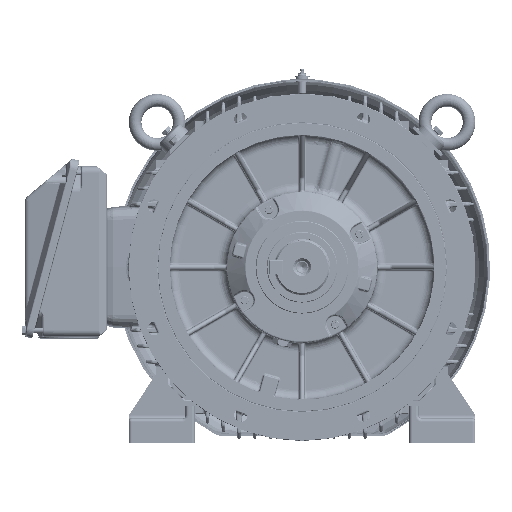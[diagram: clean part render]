
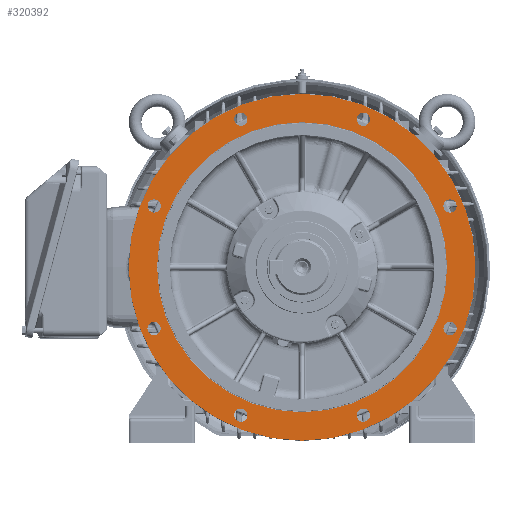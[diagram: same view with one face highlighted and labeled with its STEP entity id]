
A CAD part, front view. The second image highlights one B-rep face of the part: STEP entity #320392.
In plain terms, the highlighted planar face has unit normal (0, -1, 0).
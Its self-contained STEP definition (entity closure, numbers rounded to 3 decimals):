
#48047=PLANE('',#338226);
#79943=ORIENTED_EDGE('',*,*,#131924,.T.);
#79944=ORIENTED_EDGE('',*,*,#133257,.F.);
#79945=ORIENTED_EDGE('',*,*,#133258,.F.);
#79946=ORIENTED_EDGE('',*,*,#133259,.F.);
#79947=ORIENTED_EDGE('',*,*,#133260,.F.);
#79948=ORIENTED_EDGE('',*,*,#133261,.F.);
#79949=ORIENTED_EDGE('',*,*,#133262,.F.);
#79950=ORIENTED_EDGE('',*,*,#133263,.F.);
#79951=ORIENTED_EDGE('',*,*,#133264,.F.);
#79952=ORIENTED_EDGE('',*,*,#133265,.F.);
#131924=EDGE_CURVE('',#160387,#160387,#178117,.T.);
#133257=EDGE_CURVE('',#160989,#160989,#178764,.T.);
#133258=EDGE_CURVE('',#160990,#160990,#178765,.T.);
#133259=EDGE_CURVE('',#160991,#160991,#178766,.T.);
#133260=EDGE_CURVE('',#160992,#160992,#178767,.T.);
#133261=EDGE_CURVE('',#160993,#160993,#178768,.T.);
#133262=EDGE_CURVE('',#160994,#160994,#178769,.T.);
#133263=EDGE_CURVE('',#160995,#160995,#178770,.T.);
#133264=EDGE_CURVE('',#160996,#160996,#178771,.T.);
#133265=EDGE_CURVE('',#160997,#160997,#178772,.T.);
#160387=VERTEX_POINT('',#483917);
#160989=VERTEX_POINT('',#501488);
#160990=VERTEX_POINT('',#501490);
#160991=VERTEX_POINT('',#501492);
#160992=VERTEX_POINT('',#501494);
#160993=VERTEX_POINT('',#501496);
#160994=VERTEX_POINT('',#501498);
#160995=VERTEX_POINT('',#501500);
#160996=VERTEX_POINT('',#501502);
#160997=VERTEX_POINT('',#501504);
#178117=CIRCLE('',#337120,275.);
#178764=CIRCLE('',#338227,230.);
#178765=CIRCLE('',#338228,10.5);
#178766=CIRCLE('',#338229,10.5);
#178767=CIRCLE('',#338230,10.5);
#178768=CIRCLE('',#338231,10.5);
#178769=CIRCLE('',#338232,10.5);
#178770=CIRCLE('',#338233,10.5);
#178771=CIRCLE('',#338234,10.5);
#178772=CIRCLE('',#338235,10.5);
#189003=EDGE_LOOP('',(#79943));
#189004=EDGE_LOOP('',(#79944));
#189005=EDGE_LOOP('',(#79945));
#189006=EDGE_LOOP('',(#79946));
#189007=EDGE_LOOP('',(#79947));
#189008=EDGE_LOOP('',(#79948));
#189009=EDGE_LOOP('',(#79949));
#189010=EDGE_LOOP('',(#79950));
#189011=EDGE_LOOP('',(#79951));
#189012=EDGE_LOOP('',(#79952));
#205681=FACE_BOUND('',#189003,.T.);
#205682=FACE_BOUND('',#189004,.T.);
#205683=FACE_BOUND('',#189005,.T.);
#205684=FACE_BOUND('',#189006,.T.);
#205685=FACE_BOUND('',#189007,.T.);
#205686=FACE_BOUND('',#189008,.T.);
#205687=FACE_BOUND('',#189009,.T.);
#205688=FACE_BOUND('',#189010,.T.);
#205689=FACE_BOUND('',#189011,.T.);
#205690=FACE_BOUND('',#189012,.T.);
#320392=ADVANCED_FACE('',(#205681,#205682,#205683,#205684,#205685,#205686,
#205687,#205688,#205689,#205690),#48047,.F.);
#337120=AXIS2_PLACEMENT_3D('',#483916,#371608,#371609);
#338226=AXIS2_PLACEMENT_3D('',#501486,#374150,#374151);
#338227=AXIS2_PLACEMENT_3D('',#501487,#374152,#374153);
#338228=AXIS2_PLACEMENT_3D('',#501489,#374154,#374155);
#338229=AXIS2_PLACEMENT_3D('',#501491,#374156,#374157);
#338230=AXIS2_PLACEMENT_3D('',#501493,#374158,#374159);
#338231=AXIS2_PLACEMENT_3D('',#501495,#374160,#374161);
#338232=AXIS2_PLACEMENT_3D('',#501497,#374162,#374163);
#338233=AXIS2_PLACEMENT_3D('',#501499,#374164,#374165);
#338234=AXIS2_PLACEMENT_3D('',#501501,#374166,#374167);
#338235=AXIS2_PLACEMENT_3D('',#501503,#374168,#374169);
#371608=DIRECTION('',(0.,-1.,0.));
#371609=DIRECTION('',(0.,0.,-1.));
#374150=DIRECTION('',(0.,1.,0.));
#374151=DIRECTION('',(0.,0.,1.));
#374152=DIRECTION('',(0.,-1.,0.));
#374153=DIRECTION('',(0.,0.,-1.));
#374154=DIRECTION('',(0.,-1.,0.));
#374155=DIRECTION('',(1.,0.,0.));
#374156=DIRECTION('',(0.,-1.,0.));
#374157=DIRECTION('',(1.,0.,0.));
#374158=DIRECTION('',(0.,-1.,0.));
#374159=DIRECTION('',(1.,0.,0.));
#374160=DIRECTION('',(0.,-1.,0.));
#374161=DIRECTION('',(1.,0.,0.));
#374162=DIRECTION('',(0.,-1.,0.));
#374163=DIRECTION('',(1.,0.,0.));
#374164=DIRECTION('',(0.,-1.,0.));
#374165=DIRECTION('',(1.,0.,0.));
#374166=DIRECTION('',(0.,-1.,0.));
#374167=DIRECTION('',(1.,0.,0.));
#374168=DIRECTION('',(0.,-1.,0.));
#374169=DIRECTION('',(1.,0.,0.));
#483916=CARTESIAN_POINT('',(0.,-96.,0.));
#483917=CARTESIAN_POINT('',(0.,-96.,-275.));
#501486=CARTESIAN_POINT('',(0.,-96.,230.));
#501487=CARTESIAN_POINT('',(0.,-96.,0.));
#501488=CARTESIAN_POINT('',(0.,-96.,-230.));
#501489=CARTESIAN_POINT('',(97.202,-96.,234.665));
#501490=CARTESIAN_POINT('',(107.702,-96.,234.665));
#501491=CARTESIAN_POINT('',(-97.202,-96.,234.665));
#501492=CARTESIAN_POINT('',(-86.702,-96.,234.665));
#501493=CARTESIAN_POINT('',(-234.665,-96.,97.202));
#501494=CARTESIAN_POINT('',(-224.165,-96.,97.202));
#501495=CARTESIAN_POINT('',(-234.665,-96.,-97.202));
#501496=CARTESIAN_POINT('',(-224.165,-96.,-97.202));
#501497=CARTESIAN_POINT('',(-97.202,-96.,-234.665));
#501498=CARTESIAN_POINT('',(-86.702,-96.,-234.665));
#501499=CARTESIAN_POINT('',(97.202,-96.,-234.665));
#501500=CARTESIAN_POINT('',(107.702,-96.,-234.665));
#501501=CARTESIAN_POINT('',(234.665,-96.,-97.202));
#501502=CARTESIAN_POINT('',(245.165,-96.,-97.202));
#501503=CARTESIAN_POINT('',(234.665,-96.,97.202));
#501504=CARTESIAN_POINT('',(245.165,-96.,97.202));
